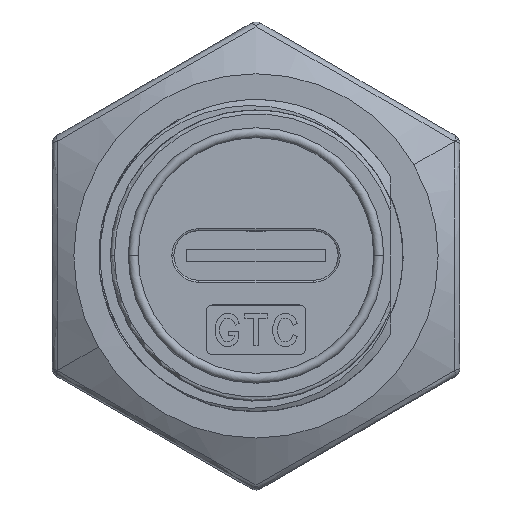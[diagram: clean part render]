
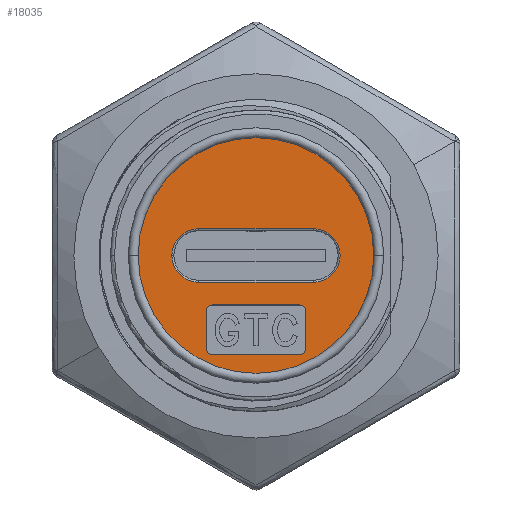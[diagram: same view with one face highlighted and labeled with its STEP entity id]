
A CAD part, top view. The second image highlights one B-rep face of the part: STEP entity #18035.
In plain terms, the highlighted planar face has unit normal (0, 0, 1).
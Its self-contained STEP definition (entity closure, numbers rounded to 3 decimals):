
#772 = FACE_BOUND ( 'NONE', #1686, .T. ) ;
#1686 = EDGE_LOOP ( 'NONE', ( #24404, #49063, #10359, #8876, #68747 ) ) ;
#2532 = CIRCLE ( 'NONE', #28256, 1.35 ) ;
#3410 = EDGE_CURVE ( 'NONE', #60660, #52989, #37760, .T. ) ;
#3661 = DIRECTION ( 'NONE',  ( 0., 0., -1. ) ) ;
#5020 = PLANE ( 'NONE',  #62518 ) ;
#5221 = CARTESIAN_POINT ( 'NONE',  ( 2.9, 1.35, 20.1 ) ) ;
#5365 = VERTEX_POINT ( 'NONE', #56582 ) ;
#6863 = EDGE_CURVE ( 'NONE', #23820, #16019, #69081, .T. ) ;
#8426 = AXIS2_PLACEMENT_3D ( 'NONE', #20629, #73966, #73212 ) ;
#8876 = ORIENTED_EDGE ( 'NONE', *, *, #45096, .T. ) ;
#8989 = AXIS2_PLACEMENT_3D ( 'NONE', #63745, #22296, #69886 ) ;
#9364 = CIRCLE ( 'NONE', #52194, 1.35 ) ;
#9854 = VERTEX_POINT ( 'NONE', #44924 ) ;
#10174 = EDGE_CURVE ( 'NONE', #56771, #66580, #31420, .T. ) ;
#10359 = ORIENTED_EDGE ( 'NONE', *, *, #39801, .T. ) ;
#10529 = CARTESIAN_POINT ( 'NONE',  ( -2.5, -4.7, 20.1 ) ) ;
#12236 = DIRECTION ( 'NONE',  ( 0., 0., 1. ) ) ;
#12617 = CARTESIAN_POINT ( 'NONE',  ( -2.2, -2.8, 20.1 ) ) ;
#12658 = VERTEX_POINT ( 'NONE', #31555 ) ;
#13261 = LINE ( 'NONE', #36664, #56144 ) ;
#13392 = CARTESIAN_POINT ( 'NONE',  ( 0., -1.35, 20.1 ) ) ;
#14830 = EDGE_CURVE ( 'NONE', #16019, #65292, #38963, .T. ) ;
#15860 = CARTESIAN_POINT ( 'NONE',  ( 2.5, -2.8, 20.1 ) ) ;
#16019 = VERTEX_POINT ( 'NONE', #61705 ) ;
#16834 = CARTESIAN_POINT ( 'NONE',  ( 2.5, -2.8, 20.1 ) ) ;
#16906 = CARTESIAN_POINT ( 'NONE',  ( 0., 7.35, 20.1 ) ) ;
#17043 = CARTESIAN_POINT ( 'NONE',  ( -5.95, 0., 20.1 ) ) ;
#17273 = FACE_BOUND ( 'NONE', #71314, .T. ) ;
#18035 = ADVANCED_FACE ( 'NONE', ( #772, #17273, #41805 ), #5020, .F. ) ;
#18728 = CIRCLE ( 'NONE', #59149, 5.95 ) ;
#20154 = DIRECTION ( 'NONE',  ( -1., 0., 0. ) ) ;
#20374 = LINE ( 'NONE', #31522, #34803 ) ;
#20629 = CARTESIAN_POINT ( 'NONE',  ( -2.2, -4.7, 20.1 ) ) ;
#20702 = ORIENTED_EDGE ( 'NONE', *, *, #25656, .F. ) ;
#22296 = DIRECTION ( 'NONE',  ( 0., 0., 1. ) ) ;
#23184 = CARTESIAN_POINT ( 'NONE',  ( -2.2, -2.5, 20.1 ) ) ;
#23638 = CIRCLE ( 'NONE', #72691, 0.3 ) ;
#23731 = DIRECTION ( 'NONE',  ( -1., 0., 0. ) ) ;
#23820 = VERTEX_POINT ( 'NONE', #23184 ) ;
#24048 = CARTESIAN_POINT ( 'NONE',  ( -2.2, -5., 20.1 ) ) ;
#24404 = ORIENTED_EDGE ( 'NONE', *, *, #34595, .T. ) ;
#24484 = VECTOR ( 'NONE', #57129, 1000. ) ;
#25124 = EDGE_CURVE ( 'NONE', #5365, #71977, #66623, .T. ) ;
#25656 = EDGE_CURVE ( 'NONE', #37987, #59523, #49528, .T. ) ;
#26173 = DIRECTION ( 'NONE',  ( 1., 0., 0. ) ) ;
#26185 = ORIENTED_EDGE ( 'NONE', *, *, #26445, .F. ) ;
#26445 = EDGE_CURVE ( 'NONE', #59523, #23820, #20374, .T. ) ;
#27223 = ORIENTED_EDGE ( 'NONE', *, *, #6863, .F. ) ;
#27428 = DIRECTION ( 'NONE',  ( 0., -1., 0. ) ) ;
#28256 = AXIS2_PLACEMENT_3D ( 'NONE', #57624, #57999, #68774 ) ;
#28745 = VERTEX_POINT ( 'NONE', #38995 ) ;
#29041 = VERTEX_POINT ( 'NONE', #5221 ) ;
#29832 = AXIS2_PLACEMENT_3D ( 'NONE', #12617, #12236, #53668 ) ;
#30761 = EDGE_CURVE ( 'NONE', #71977, #5365, #18728, .T. ) ;
#31420 = LINE ( 'NONE', #13392, #65118 ) ;
#31522 = CARTESIAN_POINT ( 'NONE',  ( -2.2, -2.5, 20.1 ) ) ;
#31555 = CARTESIAN_POINT ( 'NONE',  ( -4.25, 0., 20.1 ) ) ;
#32317 = AXIS2_PLACEMENT_3D ( 'NONE', #51375, #44861, #50999 ) ;
#32428 = CARTESIAN_POINT ( 'NONE',  ( -2.9, 0., 20.1 ) ) ;
#34516 = ORIENTED_EDGE ( 'NONE', *, *, #14830, .F. ) ;
#34595 = EDGE_CURVE ( 'NONE', #66580, #12658, #41397, .T. ) ;
#34803 = VECTOR ( 'NONE', #55677, 1000. ) ;
#36054 = DIRECTION ( 'NONE',  ( 0., 0., -1. ) ) ;
#36664 = CARTESIAN_POINT ( 'NONE',  ( 0., 1.35, 20.1 ) ) ;
#36813 = EDGE_CURVE ( 'NONE', #65292, #60660, #47590, .T. ) ;
#37760 = LINE ( 'NONE', #48533, #67907 ) ;
#37964 = CARTESIAN_POINT ( 'NONE',  ( 0., 0., 20.1 ) ) ;
#37987 = VERTEX_POINT ( 'NONE', #15860 ) ;
#38446 = CARTESIAN_POINT ( 'NONE',  ( 2.2, -4.7, 20.1 ) ) ;
#38717 = LINE ( 'NONE', #16834, #24484 ) ;
#38963 = LINE ( 'NONE', #50096, #43671 ) ;
#38995 = CARTESIAN_POINT ( 'NONE',  ( 2.5, -4.7, 20.1 ) ) ;
#39801 = EDGE_CURVE ( 'NONE', #9854, #29041, #13261, .T. ) ;
#40322 = DIRECTION ( 'NONE',  ( -1., 0., 0. ) ) ;
#40914 = ORIENTED_EDGE ( 'NONE', *, *, #30761, .T. ) ;
#41022 = CARTESIAN_POINT ( 'NONE',  ( -2.9, 0., 20.1 ) ) ;
#41397 = CIRCLE ( 'NONE', #54874, 1.35 ) ;
#41805 = FACE_OUTER_BOUND ( 'NONE', #54026, .T. ) ;
#43671 = VECTOR ( 'NONE', #27428, 1000. ) ;
#43896 = DIRECTION ( 'NONE',  ( 1., 0., 0. ) ) ;
#44861 = DIRECTION ( 'NONE',  ( 0., 0., 1. ) ) ;
#44924 = CARTESIAN_POINT ( 'NONE',  ( -2.9, 1.35, 20.1 ) ) ;
#45096 = EDGE_CURVE ( 'NONE', #29041, #56771, #2532, .T. ) ;
#45198 = ORIENTED_EDGE ( 'NONE', *, *, #3410, .F. ) ;
#46782 = ORIENTED_EDGE ( 'NONE', *, *, #61278, .F. ) ;
#47192 = CARTESIAN_POINT ( 'NONE',  ( 2.2, -2.5, 20.1 ) ) ;
#47590 = CIRCLE ( 'NONE', #8426, 0.3 ) ;
#48161 = EDGE_CURVE ( 'NONE', #12658, #9854, #9364, .T. ) ;
#48533 = CARTESIAN_POINT ( 'NONE',  ( -2.2, -5., 20.1 ) ) ;
#48575 = DIRECTION ( 'NONE',  ( 1., 0., 0. ) ) ;
#49063 = ORIENTED_EDGE ( 'NONE', *, *, #48161, .T. ) ;
#49491 = DIRECTION ( 'NONE',  ( 0., 0., 1. ) ) ;
#49528 = CIRCLE ( 'NONE', #32317, 0.3 ) ;
#50096 = CARTESIAN_POINT ( 'NONE',  ( -2.5, -2.8, 20.1 ) ) ;
#50999 = DIRECTION ( 'NONE',  ( -1., 0., 0. ) ) ;
#51375 = CARTESIAN_POINT ( 'NONE',  ( 2.2, -2.8, 20.1 ) ) ;
#52194 = AXIS2_PLACEMENT_3D ( 'NONE', #32428, #3661, #20154 ) ;
#52989 = VERTEX_POINT ( 'NONE', #68856 ) ;
#53668 = DIRECTION ( 'NONE',  ( 1., 0., 0. ) ) ;
#54026 = EDGE_LOOP ( 'NONE', ( #40914, #59968 ) ) ;
#54874 = AXIS2_PLACEMENT_3D ( 'NONE', #41022, #73776, #23731 ) ;
#55409 = EDGE_CURVE ( 'NONE', #52989, #28745, #23638, .T. ) ;
#55677 = DIRECTION ( 'NONE',  ( -1., 0., 0. ) ) ;
#56104 = DIRECTION ( 'NONE',  ( 0., 0., 1. ) ) ;
#56144 = VECTOR ( 'NONE', #48575, 1000. ) ;
#56582 = CARTESIAN_POINT ( 'NONE',  ( 5.95, 0., 20.1 ) ) ;
#56771 = VERTEX_POINT ( 'NONE', #73836 ) ;
#57129 = DIRECTION ( 'NONE',  ( 0., 1., 0. ) ) ;
#57624 = CARTESIAN_POINT ( 'NONE',  ( 2.9, 0., 20.1 ) ) ;
#57999 = DIRECTION ( 'NONE',  ( 0., 0., -1. ) ) ;
#58072 = ORIENTED_EDGE ( 'NONE', *, *, #36813, .F. ) ;
#59149 = AXIS2_PLACEMENT_3D ( 'NONE', #37964, #49491, #61381 ) ;
#59523 = VERTEX_POINT ( 'NONE', #47192 ) ;
#59968 = ORIENTED_EDGE ( 'NONE', *, *, #25124, .T. ) ;
#60660 = VERTEX_POINT ( 'NONE', #24048 ) ;
#61278 = EDGE_CURVE ( 'NONE', #28745, #37987, #38717, .T. ) ;
#61381 = DIRECTION ( 'NONE',  ( 1., 0., 0. ) ) ;
#61705 = CARTESIAN_POINT ( 'NONE',  ( -2.5, -2.8, 20.1 ) ) ;
#62518 = AXIS2_PLACEMENT_3D ( 'NONE', #16906, #36054, #40322 ) ;
#63745 = CARTESIAN_POINT ( 'NONE',  ( 0., 0., 20.1 ) ) ;
#63801 = CARTESIAN_POINT ( 'NONE',  ( -2.9, -1.35, 20.1 ) ) ;
#65118 = VECTOR ( 'NONE', #65592, 1000. ) ;
#65292 = VERTEX_POINT ( 'NONE', #10529 ) ;
#65592 = DIRECTION ( 'NONE',  ( -1., 0., 0. ) ) ;
#66580 = VERTEX_POINT ( 'NONE', #63801 ) ;
#66623 = CIRCLE ( 'NONE', #8989, 5.95 ) ;
#67701 = ORIENTED_EDGE ( 'NONE', *, *, #55409, .F. ) ;
#67907 = VECTOR ( 'NONE', #43896, 1000. ) ;
#68747 = ORIENTED_EDGE ( 'NONE', *, *, #10174, .T. ) ;
#68774 = DIRECTION ( 'NONE',  ( -1., 0., 0. ) ) ;
#68856 = CARTESIAN_POINT ( 'NONE',  ( 2.2, -5., 20.1 ) ) ;
#69081 = CIRCLE ( 'NONE', #29832, 0.3 ) ;
#69886 = DIRECTION ( 'NONE',  ( 1., 0., 0. ) ) ;
#71314 = EDGE_LOOP ( 'NONE', ( #26185, #20702, #46782, #67701, #45198, #58072, #34516, #27223 ) ) ;
#71977 = VERTEX_POINT ( 'NONE', #17043 ) ;
#72691 = AXIS2_PLACEMENT_3D ( 'NONE', #38446, #56104, #26173 ) ;
#73212 = DIRECTION ( 'NONE',  ( -1., 0., 0. ) ) ;
#73776 = DIRECTION ( 'NONE',  ( 0., 0., -1. ) ) ;
#73836 = CARTESIAN_POINT ( 'NONE',  ( 2.9, -1.35, 20.1 ) ) ;
#73966 = DIRECTION ( 'NONE',  ( 0., 0., 1. ) ) ;
